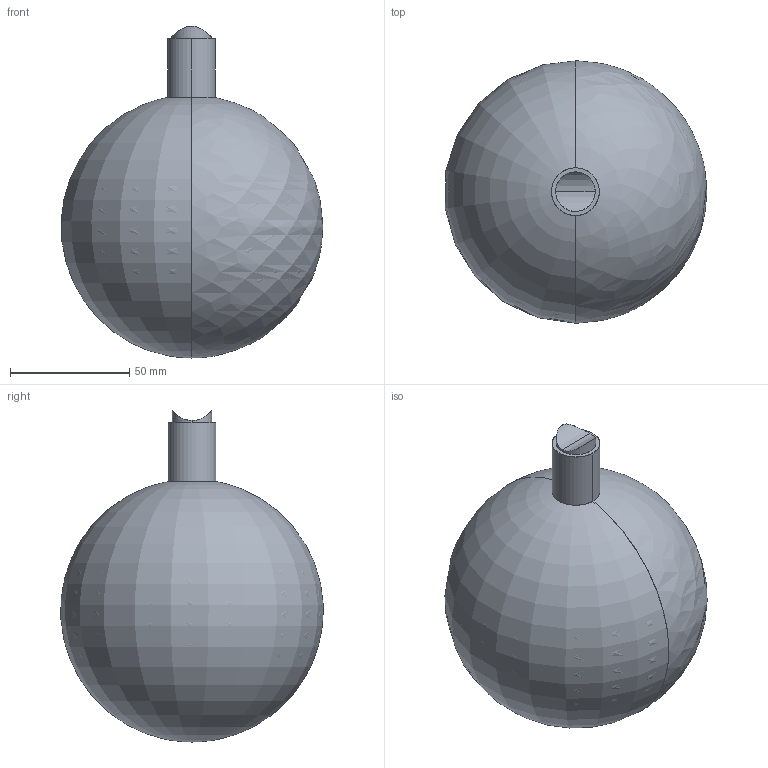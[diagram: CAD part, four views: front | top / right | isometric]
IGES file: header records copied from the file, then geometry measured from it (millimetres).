
Start section: SolidWorks IGES file using analytic representation for surfaces
Global section: file name: C:\Users\Joandita\Dropbox\Rakumba Marketing - Design\PRODUCT\TYPOGRAPHY\VELA\PRODUCT PHOTOGRAPHY\WORKING FILES\RENDERS\CAD\Lightweight\Lights\Globe 110.IGS; native system: SolidWorks 2017; preprocessor: SolidWorks 2017; author: Joandita; date: 210916.121451; units: millimetre
Bounding box: 109.5 x 110 x 139.01 mm (x, y, z)
Surface area: 78903.4 mm2 (no closed solid volume)
Topology: 0 solids, 0 shells, 21 faces, 376 edges, 375 vertices
Faces by surface type: revolution 16, bspline 5
